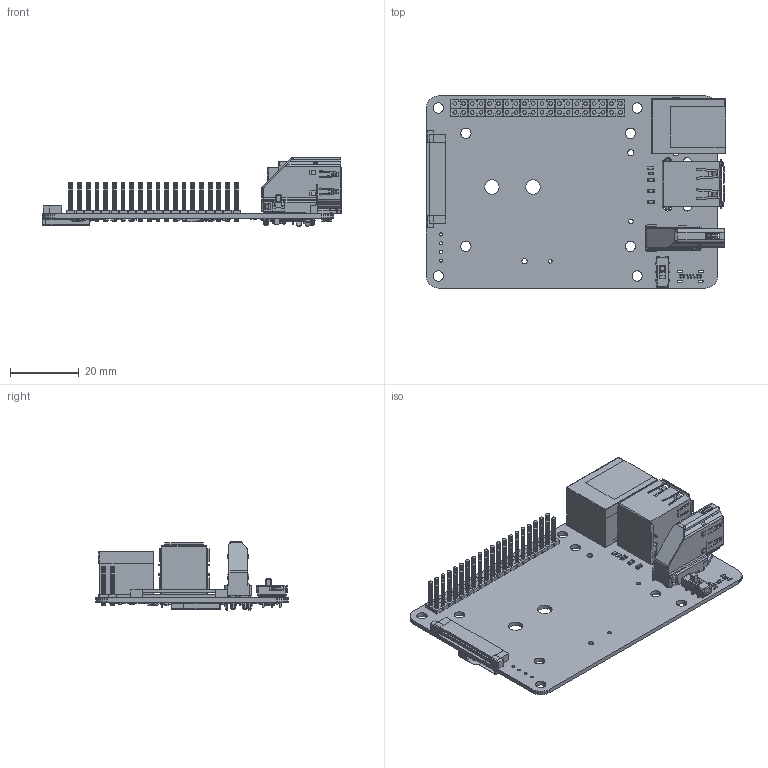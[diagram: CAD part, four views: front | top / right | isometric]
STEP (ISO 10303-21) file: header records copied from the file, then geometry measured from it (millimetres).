
FILE_DESCRIPTION(('Open CASCADE Model'),'2;1');
FILE_NAME('Open CASCADE Shape Model','2022-10-08T10:20:30',('Author'),( 'Open CASCADE'),'Open CASCADE STEP processor 6.5','Open CASCADE 6.5' ,'Unknown');
FILE_SCHEMA(('AUTOMOTIVE_DESIGN { 1 0 10303 214 1 1 1 1 }'));
Length unit declared in the file: millimetre
Products named in the file (182): PCB; Board; R24; 340346944; Extruded; 340347072; R20; R25; 340351424; 340351296; R21; H6; RESC1608(0603); H5; R23; U3; 340347712; R9; R4; KEY1; User_Library-MMP221; User_Library-MMP221_MMP221; User_Library-MMP221_MMP221_SM; User_Library-MMP221_MMP221_PP; User_Library-MMP221_MMP221_PIN; TF1; 884778240; 884778368; 884778496; U10; User_Library-MSOP8; R22; Y1; 340350912; C20; CAPC1608(0603); C19; USB_HOST-2; 723095044blf; R12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
Assembly tree (359 placements, depth 4):
  PCB
    Board
    R24
      340346944
        Extruded
      340347072  x2
        Extruded
    R20
      340346944
        Extruded
      340347072  x2
        Extruded
    R25
      340351424
        Extruded
      340351296  x2
        Extruded
    R21
      340351424
        Extruded
      340351296  x2
        Extruded
    H6
      RESC1608(0603)
    H5
      RESC1608(0603)
    R23
      340351296  x2
        Extruded
      340351424
        Extruded
    U3
      340347712
        Extruded
    R9
      RESC1608(0603)
    R4
      RESC1608(0603)
    KEY1
      User_Library-MMP221
        User_Library-MMP221_MMP221
        User_Library-MMP221_MMP221_SM
        User_Library-MMP221_MMP221_PP
        User_Library-MMP221_MMP221_PIN  x3
    TF1
      884778240
        Extruded
      884778368
        Extruded
      884778496
        Extruded
    U10
      User_Library-MSOP8
    R22
      RESC1608(0603)
    Y1
      340350912
        Extruded
    C20
      CAPC1608(0603)
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Bounding box: 87.36 x 56.02 x 20.15 mm (x, y, z)
Volume: 13194.4 mm3; surface area: 25427.3 mm2
Topology: 238 solids, 238 shells, 7072 faces, 17436 edges, 10427 vertices
Faces by surface type: plane 4373, cylinder 2025, sphere 532, bspline 120, cone 20, torus 2
Full cylindrical faces by diameter (mm): 0.38 x14, 0.55 x19, 0.64 x6, 0.889 x44, 1 x18, 1.05 x4, 1.1 x3, 1.3 x1, 1.5 x1, 1.7 x1, 1.8 x1, 2.032 x2, 2.4 x4, 3 x8, 3.5 x2, 4.2 x2
Entity records: 228828 total; most frequent: CARTESIAN_POINT 73408, DIRECTION 24112, LINE 15520, VECTOR 15520, ORIENTED_EDGE 14208, PCURVE 14208, DEFINITIONAL_REPRESENTATION 14208, EDGE_CURVE 7104
